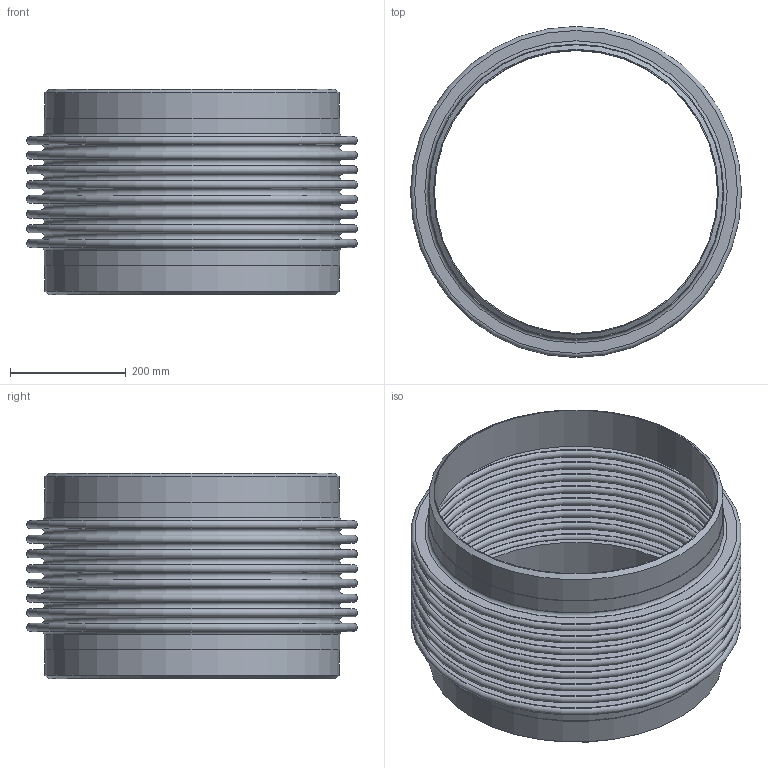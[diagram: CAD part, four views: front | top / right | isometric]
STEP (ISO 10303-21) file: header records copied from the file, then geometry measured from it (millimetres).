
FILE_DESCRIPTION(/* description */ (''),/* implementation_level */ '2;1');
FILE_NAME(/* name */ 'PIPE- 20- 85 PSIG.stp',/* time_stamp */ '2026-07-23T09:31:38-05:00',/* author */ ('jorgef'),/* organization */ (''),/* preprocessor_version */ 'ST-DEVELOPER v20.1',/* originating_system */ 'Autodesk Inventor 2026',/* authorisation */ '');
FILE_SCHEMA (('AUTOMOTIVE_DESIGN { 1 0 10303 214 3 1 1 }'));
Length unit declared in the file: inch
Products named in the file (1): PIPE- 20- 85 PSIG ASSEMBLY PART
Bounding box: 571.5 x 571.5 x 355.6 mm (x, y, z)
Volume: 3545638.8 mm3; surface area: 2578326.9 mm2
Topology: 1 solids, 1 shells, 80 faces, 126 edges, 84 vertices
Faces by surface type: plane 38, torus 34, cylinder 6, cone 2
Full cylindrical faces by diameter (mm): 488.95 x2, 508 x2, 510.438 x2
Entity records: 2035 total; most frequent: DIRECTION 406, CARTESIAN_POINT 291, ORIENTED_EDGE 252, AXIS2_PLACEMENT_3D 199, EDGE_CURVE 126, EDGE_LOOP 118, CIRCLE 118, VERTEX_POINT 84
